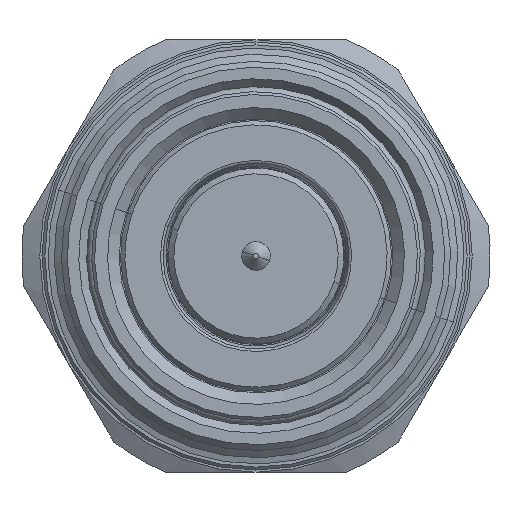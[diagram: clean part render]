
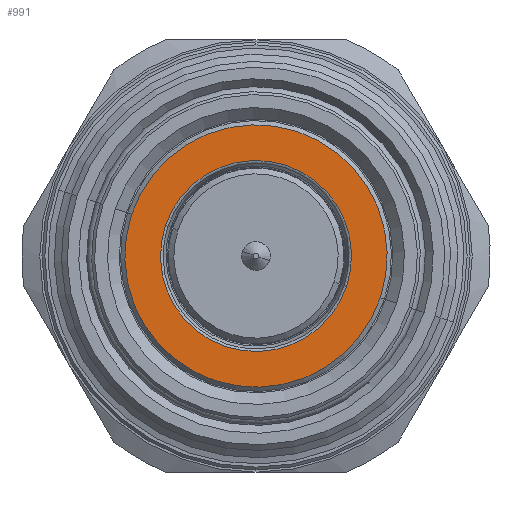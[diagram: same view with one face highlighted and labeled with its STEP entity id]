
A CAD part, left-side view. The second image highlights one B-rep face of the part: STEP entity #991.
In plain terms, the highlighted planar face has unit normal (-1, 0, 0) as drawn and (1, 0, 0) by its records, which use the part's own axes.
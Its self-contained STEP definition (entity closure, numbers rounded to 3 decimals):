
#17 = CIRCLE ( 'NONE', #23, 6.627 ) ;
#23 = AXIS2_PLACEMENT_3D ( 'NONE', #4958, #4959, #4967 ) ;
#415 = EDGE_CURVE ( 'NONE', #1252, #1262, #17, .T. ) ;
#442 = EDGE_CURVE ( 'NONE', #1247, #1273, #5281, .T. ) ;
#659 = EDGE_CURVE ( 'NONE', #1262, #1252, #5627, .T. ) ;
#725 = EDGE_CURVE ( 'NONE', #1273, #1247, #6818, .T. ) ;
#991 = ADVANCED_FACE ( 'NONE', ( #6612, #6604 ), #6613, .T. ) ;
#1247 = VERTEX_POINT ( 'NONE', #2424 ) ;
#1252 = VERTEX_POINT ( 'NONE', #2427 ) ;
#1262 = VERTEX_POINT ( 'NONE', #2415 ) ;
#1273 = VERTEX_POINT ( 'NONE', #2428 ) ;
#1353 = EDGE_LOOP ( 'NONE', ( #1927, #1954 ) ) ;
#1374 = EDGE_LOOP ( 'NONE', ( #1942, #1938 ) ) ;
#1927 = ORIENTED_EDGE ( 'NONE', *, *, #725, .F. ) ;
#1938 = ORIENTED_EDGE ( 'NONE', *, *, #659, .T. ) ;
#1942 = ORIENTED_EDGE ( 'NONE', *, *, #415, .T. ) ;
#1954 = ORIENTED_EDGE ( 'NONE', *, *, #442, .F. ) ;
#2415 = CARTESIAN_POINT ( 'NONE',  ( 21.467, 0., -6.627 ) ) ;
#2424 = CARTESIAN_POINT ( 'NONE',  ( 21.467, 0., -9.1 ) ) ;
#2427 = CARTESIAN_POINT ( 'NONE',  ( 21.467, 0., 6.627 ) ) ;
#2428 = CARTESIAN_POINT ( 'NONE',  ( 21.467, 0., 9.1 ) ) ;
#4958 = CARTESIAN_POINT ( 'NONE',  ( 21.467, 0., 0. ) ) ;
#4959 = DIRECTION ( 'NONE',  ( -1., 0., 0. ) ) ;
#4967 = DIRECTION ( 'NONE',  ( 0., 0., 1. ) ) ;
#5032 = CARTESIAN_POINT ( 'NONE',  ( 21.467, 0., 0. ) ) ;
#5040 = DIRECTION ( 'NONE',  ( -1., 0., 0. ) ) ;
#5042 = DIRECTION ( 'NONE',  ( 0., 0., 1. ) ) ;
#5281 = CIRCLE ( 'NONE', #5291, 9.1 ) ;
#5291 = AXIS2_PLACEMENT_3D ( 'NONE', #5032, #5040, #5042 ) ;
#5623 = AXIS2_PLACEMENT_3D ( 'NONE', #6074, #6077, #6070 ) ;
#5627 = CIRCLE ( 'NONE', #5623, 6.627 ) ;
#6070 = DIRECTION ( 'NONE',  ( 0., 0., 1. ) ) ;
#6074 = CARTESIAN_POINT ( 'NONE',  ( 21.467, 0., 0. ) ) ;
#6077 = DIRECTION ( 'NONE',  ( -1., 0., 0. ) ) ;
#6398 = DIRECTION ( 'NONE',  ( -1., 0., 0. ) ) ;
#6403 = DIRECTION ( 'NONE',  ( 0., 0., 1. ) ) ;
#6405 = CARTESIAN_POINT ( 'NONE',  ( 21.467, 0., 0. ) ) ;
#6604 = FACE_OUTER_BOUND ( 'NONE', #1353, .T. ) ;
#6607 = DIRECTION ( 'NONE',  ( 0., 0., -1. ) ) ;
#6612 = FACE_BOUND ( 'NONE', #1374, .T. ) ;
#6613 = PLANE ( 'NONE',  #6888 ) ;
#6614 = DIRECTION ( 'NONE',  ( 1., 0., 0. ) ) ;
#6618 = CARTESIAN_POINT ( 'NONE',  ( 21.467, 0., 0. ) ) ;
#6815 = AXIS2_PLACEMENT_3D ( 'NONE', #6405, #6398, #6403 ) ;
#6818 = CIRCLE ( 'NONE', #6815, 9.1 ) ;
#6888 = AXIS2_PLACEMENT_3D ( 'NONE', #6618, #6614, #6607 ) ;
